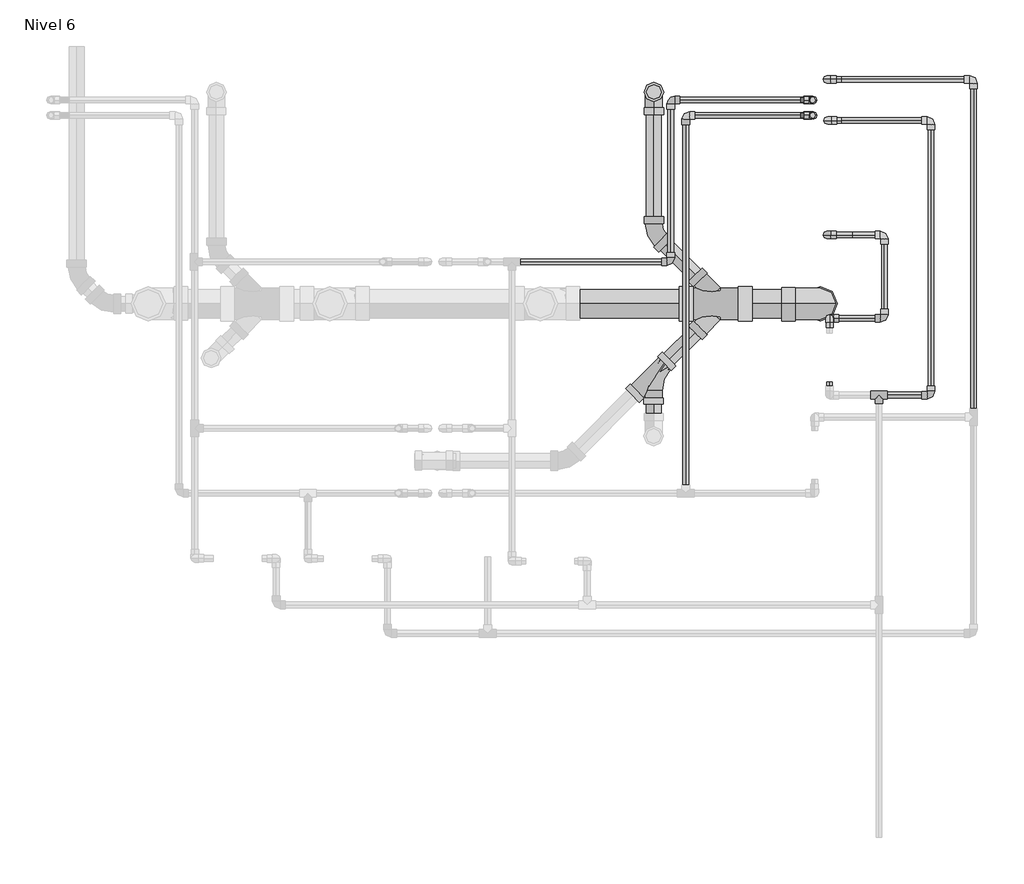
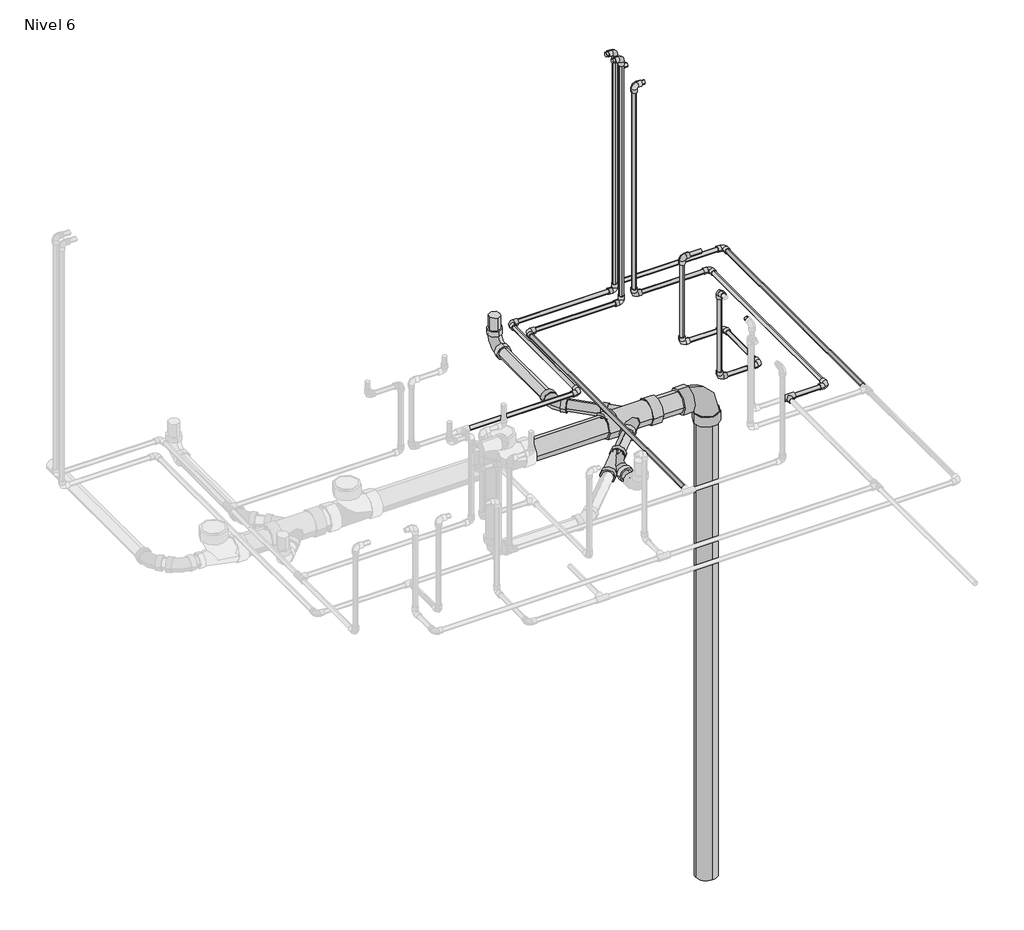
# One storey, part 11 of 11: 33 pipe segments, 26 pipe fittings.
"""IFC4 building model written with IfcOpenShell, lengths in millimetres."""

from ifc_helpers import new_model, si_unit, point, frame, frame_2d, origin, place, context, project, spatial, circle_curve, trimmed, segment, composite_curve, outline, extrude, transform, mapped, element, save
from components import pipe_fitting_ab418b84, pipe_fitting_0163322b, pipe_fitting_815a0334, m_codo_pvc_serie_40_9ad74631, m_codo_pvc_serie_40_ba05d404, m_codo_pvc_serie_40_dwv1_f5c0a64d, m_codo_pvc_serie_40_dwv1_6f1a2495, m_codo_pvc_serie_40_dwv1_326aaa64

model = new_model("IFC4")

# Units and contexts
model_context = context("Model", 3, world=origin())
ifc_project = project(units=[si_unit("LENGTHUNIT", "METRE", prefix="MILLI")], contexts=[model_context])

# Site, building, storey
site = spatial("IfcSite", under=ifc_project)
building = spatial("IfcBuilding", under=site)
storey = spatial("IfcBuildingStorey", under=building, Name="Nivel 6", Elevation=13400.0)

# Pipe fittings
placement = place(None, origin())
pipe_fitting_shape = pipe_fitting_ab418b84(model_context)
element("IfcPipeFitting", 1, ObjectType="M_Te - PVC - Serie 40 : Estándar", at=placement, inside=storey, context=model_context, shape_type="MappedRepresentation", body=[
    mapped(pipe_fitting_shape, transform((6075.1825677, 16069.8852168, 13350.0), x_axis=(1.0, 0.0, 0.0), y_axis=(0.0, 1.0, 0.0), z_axis=(0.0, 0.0, 1.0))),
])
pipe_fitting_2_shape = pipe_fitting_0163322b(model_context)
element("IfcPipeFitting", 2, ObjectType="M_Sanitario con te de reducción - PVC - Serie 40 - DWV : Estándar", at=placement, inside=storey, context=model_context, shape_type="MappedRepresentation", body=[
    mapped(pipe_fitting_2_shape, transform((5252.4531324, 16145.3871671, 13250.0), x_axis=(-0.7071067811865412, -0.7071067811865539, 0.0), y_axis=(-0.7071067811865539, 0.7071067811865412, 0.0), z_axis=(0.0, 0.0, -1.0))),
])
pipe_fitting_3_shape = pipe_fitting_815a0334(model_context)
element("IfcPipeFitting", 3, ObjectType="M_Sanitario con te doble con reducción - PVC - Serie 40 - DWV : Estándar", at=placement, inside=storey, context=model_context, shape_type="MappedRepresentation", body=[
    mapped(pipe_fitting_3_shape, transform((5510.4619927, 16403.3960274, 13250.0), x_axis=(-1.0, 0.0, 0.0), y_axis=(0.0, -1.0, 0.0), z_axis=(0.0, 0.0, 1.0))),
])
m_codo_pvc_serie_40_shape = m_codo_pvc_serie_40_9ad74631(model_context)
element("IfcPipeFitting", 4, ObjectType="M_Codo - PVC - Serie 40 : Estándar", at=placement, inside=storey, context=model_context, shape_type="MappedRepresentation", body=[
    mapped(m_codo_pvc_serie_40_shape, transform((5895.1825677, 16349.8852168, 13800.0), x_axis=(0.0, 1.0, 0.0), y_axis=(0.0, 0.0, -1.0), z_axis=(-1.0, 0.0, 0.0))),
])
element("IfcPipeFitting", 5, ObjectType="M_Codo - PVC - Serie 40 : Estándar", at=placement, inside=storey, context=model_context, shape_type="MappedRepresentation", body=[
    mapped(m_codo_pvc_serie_40_shape, transform((5895.1825677, 16349.8852168, 13350.0), x_axis=(0.0, 0.0, -1.0), y_axis=(1.0, 0.0, 0.0), z_axis=(0.0, -1.0, 0.0))),
])
element("IfcPipeFitting", 6, ObjectType="M_Codo - PVC - Serie 40 : Estándar", at=placement, inside=storey, context=model_context, shape_type="MappedRepresentation", body=[
    mapped(m_codo_pvc_serie_40_shape, transform((6095.1825677, 16349.8852168, 13350.0), x_axis=(1.0, 0.0, 0.0), y_axis=(0.0, 1.0, 0.0), z_axis=(0.0, 0.0, 1.0))),
])
element("IfcPipeFitting", 7, ObjectType="M_Codo - PVC - Serie 40 : Estándar", at=placement, inside=storey, context=model_context, shape_type="MappedRepresentation", body=[
    mapped(m_codo_pvc_serie_40_shape, transform((6095.1825677, 16654.8852168, 13350.0), x_axis=(0.0, 1.0, 0.0), y_axis=(-1.0, 0.0, 0.0), z_axis=(0.0, 0.0, 1.0))),
])
element("IfcPipeFitting", 8, ObjectType="M_Codo - PVC - Serie 40 : Estándar", at=placement, inside=storey, context=model_context, shape_type="MappedRepresentation", body=[
    mapped(m_codo_pvc_serie_40_shape, transform((5885.1825677, 16654.8852168, 13350.0), x_axis=(-1.0, 0.0, 0.0), y_axis=(0.0, 0.0, 1.0), z_axis=(0.0, 1.0, 0.0))),
])
element("IfcPipeFitting", 9, ObjectType="M_Codo - PVC - Serie 40 : Estándar", at=placement, inside=storey, context=model_context, shape_type="MappedRepresentation", body=[
    mapped(m_codo_pvc_serie_40_shape, transform((5885.1825677, 16654.8852168, 13800.0), x_axis=(0.0, 0.0, 1.0), y_axis=(1.0, 0.0, 0.0), z_axis=(0.0, 1.0, 0.0))),
])
element("IfcPipeFitting", 10, ObjectType="M_Codo - PVC - Serie 40 : Estándar", at=placement, inside=storey, context=model_context, shape_type="MappedRepresentation", body=[
    mapped(m_codo_pvc_serie_40_shape, transform((5369.7236971, 17091.6215833, 13320.0), x_axis=(-1.0, 0.0, 0.0), y_axis=(0.0, -1.0, 0.0), z_axis=(0.0, 0.0, 1.0))),
])
element("IfcPipeFitting", 11, ObjectType="M_Codo - PVC - Serie 40 : Estándar", at=placement, inside=storey, context=model_context, shape_type="MappedRepresentation", body=[
    mapped(m_codo_pvc_serie_40_shape, transform((5315.1838533, 16556.8784649, 13350.0), x_axis=(1.0, 0.0, 0.0), y_axis=(0.0, 1.0, 0.0), z_axis=(0.0, 0.0, 1.0))),
])
element("IfcPipeFitting", 12, ObjectType="M_Codo - PVC - Serie 40 : Estándar", at=placement, inside=storey, context=model_context, shape_type="MappedRepresentation", body=[
    mapped(m_codo_pvc_serie_40_shape, transform((5885.0704553, 17222.8602016, 14450.0), x_axis=(-1.0, 0.0, 0.0), y_axis=(0.0, 0.0, -1.0), z_axis=(0.0, -1.0, 0.0))),
])
element("IfcPipeFitting", 13, ObjectType="M_Codo - PVC - Serie 40 : Estándar", at=placement, inside=storey, context=model_context, shape_type="MappedRepresentation", body=[
    mapped(m_codo_pvc_serie_40_shape, transform((5885.0704553, 17222.8602016, 13320.0), x_axis=(0.0, 0.0, -1.0), y_axis=(1.0, 0.0, 0.0), z_axis=(0.0, -1.0, 0.0))),
])
element("IfcPipeFitting", 14, ObjectType="M_Codo - PVC - Serie 40 : Estándar", at=placement, inside=storey, context=model_context, shape_type="MappedRepresentation", body=[
    mapped(m_codo_pvc_serie_40_shape, transform((6420.642724, 17222.8602016, 13320.0), x_axis=(0.0, 1.0, 0.0), y_axis=(-1.0, 0.0, 0.0), z_axis=(0.0, 0.0, 1.0))),
])
element("IfcPipeFitting", 15, ObjectType="M_Codo - PVC - Serie 40 : Estándar", at=placement, inside=storey, context=model_context, shape_type="MappedRepresentation", body=[
    mapped(m_codo_pvc_serie_40_shape, transform((5887.5704553, 17072.8602016, 14450.0), x_axis=(-1.0, 0.0, 0.0), y_axis=(0.0, 0.0, -1.0), z_axis=(0.0, -1.0, 0.0))),
])
element("IfcPipeFitting", 16, ObjectType="M_Codo - PVC - Serie 40 : Estándar", at=placement, inside=storey, context=model_context, shape_type="MappedRepresentation", body=[
    mapped(m_codo_pvc_serie_40_shape, transform((5887.5704553, 17072.8602016, 13350.0), x_axis=(0.0, 0.0, -1.0), y_axis=(1.0, 0.0, 0.0), z_axis=(0.0, -1.0, 0.0))),
])
element("IfcPipeFitting", 17, ObjectType="M_Codo - PVC - Serie 40 : Estándar", at=placement, inside=storey, context=model_context, shape_type="MappedRepresentation", body=[
    mapped(m_codo_pvc_serie_40_shape, transform((6265.642724, 16069.8852168, 13350.0), x_axis=(1.0, 0.0, 0.0), y_axis=(0.0, 1.0, 0.0), z_axis=(0.0, 0.0, 1.0))),
])
element("IfcPipeFitting", 18, ObjectType="M_Codo - PVC - Serie 40 : Estándar", at=placement, inside=storey, context=model_context, shape_type="MappedRepresentation", body=[
    mapped(m_codo_pvc_serie_40_shape, transform((6265.642724, 17072.8602016, 13350.0), x_axis=(0.0, 1.0, 0.0), y_axis=(-1.0, 0.0, 0.0), z_axis=(0.0, 0.0, 1.0))),
])
m_codo_pvc_serie_40_2_shape = m_codo_pvc_serie_40_ba05d404(model_context)
element("IfcPipeFitting", 19, ObjectType="M_Codo - PVC - Serie 40 : Estándar", at=placement, inside=storey, context=model_context, shape_type="MappedRepresentation", body=[
    mapped(m_codo_pvc_serie_40_2_shape, transform((5315.1838533, 17147.3386211, 13350.0), x_axis=(0.0, 1.0, 0.0), y_axis=(-1.0, 0.0, 0.0), z_axis=(0.0, 0.0, 1.0))),
])
element("IfcPipeFitting", 20, ObjectType="M_Codo - PVC - Serie 40 : Estándar", at=placement, inside=storey, context=model_context, shape_type="MappedRepresentation", body=[
    mapped(m_codo_pvc_serie_40_2_shape, transform((5833.9338533, 17147.3386211, 13350.0), x_axis=(1.0, 0.0, 0.0), y_axis=(0.0, 0.0, -1.0), z_axis=(0.0, 1.0, 0.0))),
])
element("IfcPipeFitting", 21, ObjectType="M_Codo - PVC - Serie 40 : Estándar", at=placement, inside=storey, context=model_context, shape_type="MappedRepresentation", body=[
    mapped(m_codo_pvc_serie_40_2_shape, transform((5833.9338533, 17147.3386211, 14600.0), x_axis=(0.0, 0.0, 1.0), y_axis=(1.0, 0.0, 0.0), z_axis=(0.0, 1.0, 0.0))),
])
element("IfcPipeFitting", 22, ObjectType="M_Codo - PVC - Serie 40 : Estándar", at=placement, inside=storey, context=model_context, shape_type="MappedRepresentation", body=[
    mapped(m_codo_pvc_serie_40_2_shape, transform((5834.7236971, 17091.6215833, 13320.0), x_axis=(1.0, 0.0, 0.0), y_axis=(0.0, 0.0, -1.0), z_axis=(0.0, 1.0, 0.0))),
])
element("IfcPipeFitting", 23, ObjectType="M_Codo - PVC - Serie 40 : Estándar", at=placement, inside=storey, context=model_context, shape_type="MappedRepresentation", body=[
    mapped(m_codo_pvc_serie_40_2_shape, transform((5834.7236971, 17091.6215833, 14600.0), x_axis=(0.0, 0.0, 1.0), y_axis=(1.0, 0.0, 0.0), z_axis=(0.0, 1.0, 0.0))),
])
m_codo_pvc_serie_40_dwv1_shape = m_codo_pvc_serie_40_dwv1_f5c0a64d(model_context)
element("IfcPipeFitting", 24, ObjectType="M_Codo - PVC - Serie 40 - DWV1 : Estándar 2", at=placement, inside=storey, context=model_context, shape_type="MappedRepresentation", body=[
    mapped(m_codo_pvc_serie_40_dwv1_shape, transform((5860.8695091, 16403.3960274, 13250.0), x_axis=(1.0, 0.0, 0.0), y_axis=(0.0, 0.0, -1.0), z_axis=(0.0, 1.0, 0.0))),
])
m_codo_pvc_serie_40_dwv1_2_shape = m_codo_pvc_serie_40_dwv1_6f1a2495(model_context)
element("IfcPipeFitting", 25, ObjectType="M_Codo - PVC - Serie 40 - DWV1 : Estándar 2", at=placement, inside=storey, context=model_context, shape_type="MappedRepresentation", body=[
    mapped(m_codo_pvc_serie_40_dwv1_2_shape, transform((5253.1820888, 16660.6759312, 13250.0), x_axis=(0.0, -1.0, 0.0), y_axis=(1.0, 0.0, 0.0), z_axis=(0.0, 0.0, 1.0))),
])
m_codo_pvc_serie_40_dwv1_3_shape = m_codo_pvc_serie_40_dwv1_326aaa64(model_context)
element("IfcPipeFitting", 26, ObjectType="M_Codo - PVC - Serie 40 - DWV1 : Estándar 2", at=placement, inside=storey, context=model_context, shape_type="MappedRepresentation", body=[
    mapped(m_codo_pvc_serie_40_dwv1_3_shape, transform((5253.1820888, 17177.0344873, 13250.0), x_axis=(0.0, 1.0, 0.0), y_axis=(0.0, 0.0, -1.0), z_axis=(-1.0, 0.0, 0.0))),
])

# Pipe segments
element("IfcPipeSegment", 27, ObjectType="Tuberia PVC Agua Fria", at=placement, inside=storey, context=model_context, shape_type="SweptSolid", body=[
    extrude(outline(composite_curve([segment(trimmed(circle_curve(frame_2d((16349.8852168, 13350.0)), 10.31875), [point((16339.5664668, 13350.0))], [point((16349.8852168, 13360.31875))], False, "CARTESIAN"), True, "CONTINUOUS"), segment(trimmed(circle_curve(frame_2d((16349.8852168, 13350.0)), 10.31875), [point((16349.8852168, 13360.31875))], [point((16360.2039668, 13350.0))], False, "CARTESIAN"), True, "CONTINUOUS"), segment(trimmed(circle_curve(frame_2d((16349.8852168, 13350.0)), 10.31875), [point((16360.2039668, 13350.0))], [point((16349.8852168, 13339.68125))], False, "CARTESIAN"), True, "CONTINUOUS"), segment(trimmed(circle_curve(frame_2d((16349.8852168, 13350.0)), 10.31875), [point((16349.8852168, 13339.68125))], [point((16339.5664668, 13350.0))], False, "CARTESIAN"), True, "CONTINUOUS")], self_intersect=False)), frame((5928.5835677, 0.0, 0.0), z_axis=(1.0, 0.0, 0.0), x_axis=(0.0, 1.0, 0.0)), (0.0, 0.0, 1.0), 133.198),
])
element("IfcPipeSegment", 28, ObjectType="Tuberia PVC Agua Fria", at=placement, inside=storey, context=model_context, shape_type="SweptSolid", body=[
    extrude(outline(composite_curve([segment(trimmed(circle_curve(frame_2d((5895.1825677, 16349.8852168)), 10.31875), [point((5905.5013177, 16349.8852168))], [point((5895.1825677, 16339.5664668))], False, "CARTESIAN"), True, "CONTINUOUS"), segment(trimmed(circle_curve(frame_2d((5895.1825677, 16349.8852168)), 10.31875), [point((5895.1825677, 16339.5664668))], [point((5884.8638177, 16349.8852168))], False, "CARTESIAN"), True, "CONTINUOUS"), segment(trimmed(circle_curve(frame_2d((5895.1825677, 16349.8852168)), 10.31875), [point((5884.8638177, 16349.8852168))], [point((5895.1825677, 16360.2039668))], False, "CARTESIAN"), True, "CONTINUOUS"), segment(trimmed(circle_curve(frame_2d((5895.1825677, 16349.8852168)), 10.31875), [point((5895.1825677, 16360.2039668))], [point((5905.5013177, 16349.8852168))], False, "CARTESIAN"), True, "CONTINUOUS")], self_intersect=False)), frame((0.0, 0.0, 13383.401), z_axis=(0.0, 0.0, 1.0), x_axis=(1.0, 0.0, 0.0)), (0.0, 0.0, 1.0), 383.198),
])
element("IfcPipeSegment", 29, ObjectType="Tuberia PVC Agua Fria", at=placement, inside=storey, context=model_context, shape_type="SweptSolid", body=[
    extrude(outline(composite_curve([segment(trimmed(circle_curve(frame_2d((13350.0, 6095.1825677)), 10.31875), [point((13350.0, 6105.5013177))], [point((13360.31875, 6095.1825677))], False, "CARTESIAN"), True, "CONTINUOUS"), segment(trimmed(circle_curve(frame_2d((13350.0, 6095.1825677)), 10.31875), [point((13360.31875, 6095.1825677))], [point((13350.0, 6084.8638177))], False, "CARTESIAN"), True, "CONTINUOUS"), segment(trimmed(circle_curve(frame_2d((13350.0, 6095.1825677)), 10.31875), [point((13350.0, 6084.8638177))], [point((13339.68125, 6095.1825677))], False, "CARTESIAN"), True, "CONTINUOUS"), segment(trimmed(circle_curve(frame_2d((13350.0, 6095.1825677)), 10.31875), [point((13339.68125, 6095.1825677))], [point((13350.0, 6105.5013177))], False, "CARTESIAN"), True, "CONTINUOUS")], self_intersect=False)), frame((0.0, 16383.2862168, 0.0), z_axis=(0.0, 1.0, 0.0), x_axis=(0.0, 0.0, 1.0)), (0.0, 0.0, 1.0), 238.198),
])
element("IfcPipeSegment", 30, ObjectType="Tuberia PVC Agua Fria", at=placement, inside=storey, context=model_context, shape_type="SweptSolid", body=[
    extrude(outline(composite_curve([segment(trimmed(circle_curve(frame_2d((16654.8852168, 13350.0)), 10.31875), [point((16665.2039668, 13350.0))], [point((16654.8852168, 13339.68125))], False, "CARTESIAN"), True, "CONTINUOUS"), segment(trimmed(circle_curve(frame_2d((16654.8852168, 13350.0)), 10.31875), [point((16654.8852168, 13339.68125))], [point((16644.5664668, 13350.0))], False, "CARTESIAN"), True, "CONTINUOUS"), segment(trimmed(circle_curve(frame_2d((16654.8852168, 13350.0)), 10.31875), [point((16644.5664668, 13350.0))], [point((16654.8852168, 13360.31875))], False, "CARTESIAN"), True, "CONTINUOUS"), segment(trimmed(circle_curve(frame_2d((16654.8852168, 13350.0)), 10.31875), [point((16654.8852168, 13360.31875))], [point((16665.2039668, 13350.0))], False, "CARTESIAN"), True, "CONTINUOUS")], self_intersect=False)), frame((5918.5835677, 0.0, 0.0), z_axis=(1.0, 0.0, 0.0), x_axis=(0.0, 1.0, 0.0)), (0.0, 0.0, 1.0), 143.198),
])
element("IfcPipeSegment", 31, ObjectType="Tuberia PVC Agua Fria", at=placement, inside=storey, context=model_context, shape_type="SweptSolid", body=[
    extrude(outline(composite_curve([segment(trimmed(circle_curve(frame_2d((16654.8852168, 13800.0)), 10.31875), [point((16644.5664668, 13800.0))], [point((16654.8852168, 13810.31875))], False, "CARTESIAN"), True, "CONTINUOUS"), segment(trimmed(circle_curve(frame_2d((16654.8852168, 13800.0)), 10.31875), [point((16654.8852168, 13810.31875))], [point((16665.2039668, 13800.0))], False, "CARTESIAN"), True, "CONTINUOUS"), segment(trimmed(circle_curve(frame_2d((16654.8852168, 13800.0)), 10.31875), [point((16665.2039668, 13800.0))], [point((16654.8852168, 13789.68125))], False, "CARTESIAN"), True, "CONTINUOUS"), segment(trimmed(circle_curve(frame_2d((16654.8852168, 13800.0)), 10.31875), [point((16654.8852168, 13789.68125))], [point((16644.5664668, 13800.0))], False, "CARTESIAN"), True, "CONTINUOUS")], self_intersect=False)), frame((5918.5835677, 0.0, 0.0), z_axis=(1.0, 0.0, 0.0), x_axis=(0.0, 1.0, 0.0)), (0.0, 0.0, 1.0), 59.8985),
])
element("IfcPipeSegment", 32, ObjectType="Tuberia PVC Agua Fria", at=placement, inside=storey, context=model_context, shape_type="SweptSolid", body=[
    extrude(outline(composite_curve([segment(trimmed(circle_curve(frame_2d((5885.1825677, 16654.8852168)), 10.31875), [point((5874.8638177, 16654.8852168))], [point((5885.1825677, 16665.2039668))], False, "CARTESIAN"), True, "CONTINUOUS"), segment(trimmed(circle_curve(frame_2d((5885.1825677, 16654.8852168)), 10.31875), [point((5885.1825677, 16665.2039668))], [point((5895.5013177, 16654.8852168))], False, "CARTESIAN"), True, "CONTINUOUS"), segment(trimmed(circle_curve(frame_2d((5885.1825677, 16654.8852168)), 10.31875), [point((5895.5013177, 16654.8852168))], [point((5885.1825677, 16644.5664668))], False, "CARTESIAN"), True, "CONTINUOUS"), segment(trimmed(circle_curve(frame_2d((5885.1825677, 16654.8852168)), 10.31875), [point((5885.1825677, 16644.5664668))], [point((5874.8638177, 16654.8852168))], False, "CARTESIAN"), True, "CONTINUOUS")], self_intersect=False)), frame((0.0, 0.0, 13383.401), z_axis=(0.0, 0.0, 1.0), x_axis=(1.0, 0.0, 0.0)), (0.0, 0.0, 1.0), 383.198),
])
element("IfcPipeSegment", 33, ObjectType="Tuberia PVC Agua Fria", at=placement, inside=storey, context=model_context, shape_type="SweptSolid", body=[
    extrude(outline(composite_curve([segment(trimmed(circle_curve(frame_2d((13800.0, 5895.1825677)), 10.31875), [point((13800.0, 5905.5013177))], [point((13810.31875, 5895.1825677))], False, "CARTESIAN"), True, "CONTINUOUS"), segment(trimmed(circle_curve(frame_2d((13800.0, 5895.1825677)), 10.31875), [point((13810.31875, 5895.1825677))], [point((13800.0, 5884.8638177))], False, "CARTESIAN"), True, "CONTINUOUS"), segment(trimmed(circle_curve(frame_2d((13800.0, 5895.1825677)), 10.31875), [point((13800.0, 5884.8638177))], [point((13789.68125, 5895.1825677))], False, "CARTESIAN"), True, "CONTINUOUS"), segment(trimmed(circle_curve(frame_2d((13800.0, 5895.1825677)), 10.31875), [point((13789.68125, 5895.1825677))], [point((13800.0, 5905.5013177))], False, "CARTESIAN"), True, "CONTINUOUS")], self_intersect=False)), frame((0.0, 16103.2862168, 0.0), z_axis=(0.0, 1.0, 0.0), x_axis=(0.0, 0.0, 1.0)), (0.0, 0.0, 1.0), 15.099),
])
element("IfcPipeSegment", 34, ObjectType="Tuberia PVC Agua Fria", at=placement, inside=storey, context=model_context, shape_type="SweptSolid", body=[
    extrude(outline(composite_curve([segment(trimmed(circle_curve(frame_2d((16069.8852168, 13350.0)), 10.31875), [point((16059.5664668, 13350.0))], [point((16069.8852168, 13360.31875))], False, "CARTESIAN"), True, "CONTINUOUS"), segment(trimmed(circle_curve(frame_2d((16069.8852168, 13350.0)), 10.31875), [point((16069.8852168, 13360.31875))], [point((16080.2039668, 13350.0))], False, "CARTESIAN"), True, "CONTINUOUS"), segment(trimmed(circle_curve(frame_2d((16069.8852168, 13350.0)), 10.31875), [point((16080.2039668, 13350.0))], [point((16069.8852168, 13339.68125))], False, "CARTESIAN"), True, "CONTINUOUS"), segment(trimmed(circle_curve(frame_2d((16069.8852168, 13350.0)), 10.31875), [point((16069.8852168, 13339.68125))], [point((16059.5664668, 13350.0))], False, "CARTESIAN"), True, "CONTINUOUS")], self_intersect=False)), frame((6105.642724, 0.0, 0.0), z_axis=(1.0, 0.0, 0.0), x_axis=(0.0, 1.0, 0.0)), (0.0, 0.0, 1.0), 126.599),
])
element("IfcPipeSegment", 35, ObjectType="Tuberia PVC Agua Fria", at=placement, inside=storey, context=model_context, shape_type="SweptSolid", body=[
    extrude(outline(composite_curve([segment(trimmed(circle_curve(frame_2d((13350.0, 6265.642724)), 10.31875), [point((13350.0, 6275.961474))], [point((13360.31875, 6265.642724))], False, "CARTESIAN"), True, "CONTINUOUS"), segment(trimmed(circle_curve(frame_2d((13350.0, 6265.642724)), 10.31875), [point((13360.31875, 6265.642724))], [point((13350.0, 6255.323974))], False, "CARTESIAN"), True, "CONTINUOUS"), segment(trimmed(circle_curve(frame_2d((13350.0, 6265.642724)), 10.31875), [point((13350.0, 6255.323974))], [point((13339.68125, 6265.642724))], False, "CARTESIAN"), True, "CONTINUOUS"), segment(trimmed(circle_curve(frame_2d((13350.0, 6265.642724)), 10.31875), [point((13339.68125, 6265.642724))], [point((13350.0, 6275.961474))], False, "CARTESIAN"), True, "CONTINUOUS")], self_intersect=False)), frame((0.0, 16103.2862168, 0.0), z_axis=(0.0, 1.0, 0.0), x_axis=(0.0, 0.0, 1.0)), (0.0, 0.0, 1.0), 936.1729847),
])
element("IfcPipeSegment", 36, ObjectType="Tuberia PVC Agua Fria", at=placement, inside=storey, context=model_context, shape_type="SweptSolid", body=[
    extrude(outline(composite_curve([segment(trimmed(circle_curve(frame_2d((13350.0, 5315.1838533)), 10.31875), [point((13350.0, 5325.5026033))], [point((13360.31875, 5315.1838533))], False, "CARTESIAN"), True, "CONTINUOUS"), segment(trimmed(circle_curve(frame_2d((13350.0, 5315.1838533)), 10.31875), [point((13360.31875, 5315.1838533))], [point((13350.0, 5304.8651033))], False, "CARTESIAN"), True, "CONTINUOUS"), segment(trimmed(circle_curve(frame_2d((13350.0, 5315.1838533)), 10.31875), [point((13350.0, 5304.8651033))], [point((13339.68125, 5315.1838533))], False, "CARTESIAN"), True, "CONTINUOUS"), segment(trimmed(circle_curve(frame_2d((13350.0, 5315.1838533)), 10.31875), [point((13339.68125, 5315.1838533))], [point((13350.0, 5325.5026033))], False, "CARTESIAN"), True, "CONTINUOUS")], self_intersect=False)), frame((0.0, 16590.2794649, 0.0), z_axis=(0.0, 1.0, 0.0), x_axis=(0.0, 0.0, 1.0)), (0.0, 0.0, 1.0), 523.6581563),
])
element("IfcPipeSegment", 37, ObjectType="Tuberia PVC Agua Fria", at=placement, inside=storey, context=model_context, shape_type="SweptSolid", body=[
    extrude(outline(composite_curve([segment(trimmed(circle_curve(frame_2d((17147.3386211, 13350.0)), 10.31875), [point((17137.0198711, 13350.0))], [point((17147.3386211, 13360.31875))], False, "CARTESIAN"), True, "CONTINUOUS"), segment(trimmed(circle_curve(frame_2d((17147.3386211, 13350.0)), 10.31875), [point((17147.3386211, 13360.31875))], [point((17157.6573711, 13350.0))], False, "CARTESIAN"), True, "CONTINUOUS"), segment(trimmed(circle_curve(frame_2d((17147.3386211, 13350.0)), 10.31875), [point((17157.6573711, 13350.0))], [point((17147.3386211, 13339.68125))], False, "CARTESIAN"), True, "CONTINUOUS"), segment(trimmed(circle_curve(frame_2d((17147.3386211, 13350.0)), 10.31875), [point((17147.3386211, 13339.68125))], [point((17137.0198711, 13350.0))], False, "CARTESIAN"), True, "CONTINUOUS")], self_intersect=False)), frame((5348.5848533, 0.0, 0.0), z_axis=(1.0, 0.0, 0.0), x_axis=(0.0, 1.0, 0.0)), (0.0, 0.0, 1.0), 451.948),
])
element("IfcPipeSegment", 38, ObjectType="Tuberia PVC Agua Fria", at=placement, inside=storey, context=model_context, shape_type="SweptSolid", body=[
    extrude(outline(composite_curve([segment(trimmed(circle_curve(frame_2d((17147.3386211, 14600.0)), 10.31875), [point((17157.6573711, 14600.0))], [point((17147.3386211, 14589.68125))], False, "CARTESIAN"), True, "CONTINUOUS"), segment(trimmed(circle_curve(frame_2d((17147.3386211, 14600.0)), 10.31875), [point((17147.3386211, 14589.68125))], [point((17137.0198711, 14600.0))], False, "CARTESIAN"), True, "CONTINUOUS"), segment(trimmed(circle_curve(frame_2d((17147.3386211, 14600.0)), 10.31875), [point((17137.0198711, 14600.0))], [point((17147.3386211, 14610.31875))], False, "CARTESIAN"), True, "CONTINUOUS"), segment(trimmed(circle_curve(frame_2d((17147.3386211, 14600.0)), 10.31875), [point((17147.3386211, 14610.31875))], [point((17157.6573711, 14600.0))], False, "CARTESIAN"), True, "CONTINUOUS")], self_intersect=False)), frame((5790.1838533, 0.0, 0.0), z_axis=(1.0, 0.0, 0.0), x_axis=(0.0, 1.0, 0.0)), (0.0, 0.0, 1.0), 10.349),
])
element("IfcPipeSegment", 39, ObjectType="Tuberia PVC Agua Fria", at=placement, inside=storey, context=model_context, shape_type="SweptSolid", body=[
    extrude(outline(composite_curve([segment(trimmed(circle_curve(frame_2d((5833.9338533, 17147.3386211)), 10.31875), [point((5823.6151033, 17147.3386211))], [point((5833.9338533, 17157.6573711))], False, "CARTESIAN"), True, "CONTINUOUS"), segment(trimmed(circle_curve(frame_2d((5833.9338533, 17147.3386211)), 10.31875), [point((5833.9338533, 17157.6573711))], [point((5844.2526033, 17147.3386211))], False, "CARTESIAN"), True, "CONTINUOUS"), segment(trimmed(circle_curve(frame_2d((5833.9338533, 17147.3386211)), 10.31875), [point((5844.2526033, 17147.3386211))], [point((5833.9338533, 17137.0198711))], False, "CARTESIAN"), True, "CONTINUOUS"), segment(trimmed(circle_curve(frame_2d((5833.9338533, 17147.3386211)), 10.31875), [point((5833.9338533, 17137.0198711))], [point((5823.6151033, 17147.3386211))], False, "CARTESIAN"), True, "CONTINUOUS")], self_intersect=False)), frame((0.0, 0.0, 13383.401), z_axis=(0.0, 0.0, 1.0), x_axis=(1.0, 0.0, 0.0)), (0.0, 0.0, 1.0), 1183.198),
])
element("IfcPipeSegment", 40, ObjectType="Tuberia PVC Agua Fria", at=placement, inside=storey, context=model_context, shape_type="SweptSolid", body=[
    extrude(outline(composite_curve([segment(trimmed(circle_curve(frame_2d((16556.8784649, 13350.0)), 10.31875), [point((16567.1972149, 13350.0))], [point((16556.8784649, 13339.68125))], False, "CARTESIAN"), True, "CONTINUOUS"), segment(trimmed(circle_curve(frame_2d((16556.8784649, 13350.0)), 10.31875), [point((16556.8784649, 13339.68125))], [point((16546.5597149, 13350.0))], False, "CARTESIAN"), True, "CONTINUOUS"), segment(trimmed(circle_curve(frame_2d((16556.8784649, 13350.0)), 10.31875), [point((16546.5597149, 13350.0))], [point((16556.8784649, 13360.31875))], False, "CARTESIAN"), True, "CONTINUOUS"), segment(trimmed(circle_curve(frame_2d((16556.8784649, 13350.0)), 10.31875), [point((16556.8784649, 13360.31875))], [point((16567.1972149, 13350.0))], False, "CARTESIAN"), True, "CONTINUOUS")], self_intersect=False)), frame((4765.642724, 0.0, 0.0), z_axis=(1.0, 0.0, 0.0), x_axis=(0.0, 1.0, 0.0)), (0.0, 0.0, 1.0), 516.1401293),
])
element("IfcPipeSegment", 41, ObjectType="Tuberia PVC Agua Fria", at=placement, inside=storey, context=model_context, shape_type="SweptSolid", body=[
    extrude(outline(composite_curve([segment(trimmed(circle_curve(frame_2d((17072.8602016, 14450.0)), 10.31875), [point((17083.1789516, 14450.0))], [point((17072.8602016, 14439.68125))], False, "CARTESIAN"), True, "CONTINUOUS"), segment(trimmed(circle_curve(frame_2d((17072.8602016, 14450.0)), 10.31875), [point((17072.8602016, 14439.68125))], [point((17062.5414516, 14450.0))], False, "CARTESIAN"), True, "CONTINUOUS"), segment(trimmed(circle_curve(frame_2d((17072.8602016, 14450.0)), 10.31875), [point((17062.5414516, 14450.0))], [point((17072.8602016, 14460.31875))], False, "CARTESIAN"), True, "CONTINUOUS"), segment(trimmed(circle_curve(frame_2d((17072.8602016, 14450.0)), 10.31875), [point((17072.8602016, 14460.31875))], [point((17083.1789516, 14450.0))], False, "CARTESIAN"), True, "CONTINUOUS")], self_intersect=False)), frame((5920.9714553, 0.0, 0.0), z_axis=(1.0, 0.0, 0.0), x_axis=(0.0, 1.0, 0.0)), (0.0, 0.0, 1.0), 16.599),
])
element("IfcPipeSegment", 42, ObjectType="Tuberia PVC Agua Fria", at=placement, inside=storey, context=model_context, shape_type="SweptSolid", body=[
    extrude(outline(composite_curve([segment(trimmed(circle_curve(frame_2d((5887.5704553, 17072.8602016)), 10.31875), [point((5897.8892053, 17072.8602016))], [point((5887.5704553, 17062.5414516))], False, "CARTESIAN"), True, "CONTINUOUS"), segment(trimmed(circle_curve(frame_2d((5887.5704553, 17072.8602016)), 10.31875), [point((5887.5704553, 17062.5414516))], [point((5877.2517053, 17072.8602016))], False, "CARTESIAN"), True, "CONTINUOUS"), segment(trimmed(circle_curve(frame_2d((5887.5704553, 17072.8602016)), 10.31875), [point((5877.2517053, 17072.8602016))], [point((5887.5704553, 17083.1789516))], False, "CARTESIAN"), True, "CONTINUOUS"), segment(trimmed(circle_curve(frame_2d((5887.5704553, 17072.8602016)), 10.31875), [point((5887.5704553, 17083.1789516))], [point((5897.8892053, 17072.8602016))], False, "CARTESIAN"), True, "CONTINUOUS")], self_intersect=False)), frame((0.0, 0.0, 13383.401), z_axis=(0.0, 0.0, 1.0), x_axis=(1.0, 0.0, 0.0)), (0.0, 0.0, 1.0), 1033.198),
])
element("IfcPipeSegment", 43, ObjectType="Tuberia PVC Agua Fria", at=placement, inside=storey, context=model_context, shape_type="SweptSolid", body=[
    extrude(outline(composite_curve([segment(trimmed(circle_curve(frame_2d((17072.8602016, 13350.0)), 10.31875), [point((17062.5414516, 13350.0))], [point((17072.8602016, 13360.31875))], False, "CARTESIAN"), True, "CONTINUOUS"), segment(trimmed(circle_curve(frame_2d((17072.8602016, 13350.0)), 10.31875), [point((17072.8602016, 13360.31875))], [point((17083.1789516, 13350.0))], False, "CARTESIAN"), True, "CONTINUOUS"), segment(trimmed(circle_curve(frame_2d((17072.8602016, 13350.0)), 10.31875), [point((17083.1789516, 13350.0))], [point((17072.8602016, 13339.68125))], False, "CARTESIAN"), True, "CONTINUOUS"), segment(trimmed(circle_curve(frame_2d((17072.8602016, 13350.0)), 10.31875), [point((17072.8602016, 13339.68125))], [point((17062.5414516, 13350.0))], False, "CARTESIAN"), True, "CONTINUOUS")], self_intersect=False)), frame((5920.9714553, 0.0, 0.0), z_axis=(1.0, 0.0, 0.0), x_axis=(0.0, 1.0, 0.0)), (0.0, 0.0, 1.0), 311.2702687),
])
element("IfcPipeSegment", 44, ObjectType="Tuberia PVC Agua Caliente", at=placement, inside=storey, context=model_context, shape_type="SweptSolid", body=[
    extrude(outline(composite_curve([segment(trimmed(circle_curve(frame_2d((13320.0, 6420.642724)), 10.31875), [point((13320.0, 6410.323974))], [point((13309.68125, 6420.642724))], False, "CARTESIAN"), True, "CONTINUOUS"), segment(trimmed(circle_curve(frame_2d((13320.0, 6420.642724)), 10.31875), [point((13309.68125, 6420.642724))], [point((13320.0, 6430.961474))], False, "CARTESIAN"), True, "CONTINUOUS"), segment(trimmed(circle_curve(frame_2d((13320.0, 6420.642724)), 10.31875), [point((13320.0, 6430.961474))], [point((13330.31875, 6420.642724))], False, "CARTESIAN"), True, "CONTINUOUS"), segment(trimmed(circle_curve(frame_2d((13320.0, 6420.642724)), 10.31875), [point((13330.31875, 6420.642724))], [point((13320.0, 6410.323974))], False, "CARTESIAN"), True, "CONTINUOUS")], self_intersect=False)), frame((0.0, 16020.3453731, 0.0), z_axis=(0.0, 1.0, 0.0), x_axis=(0.0, 0.0, 1.0)), (0.0, 0.0, 1.0), 1169.1138285),
])
element("IfcPipeSegment", 45, ObjectType="Tuberia PVC Agua Caliente", at=placement, inside=storey, context=model_context, shape_type="SweptSolid", body=[
    extrude(outline(composite_curve([segment(trimmed(circle_curve(frame_2d((13320.0, 5369.7236971)), 10.31875), [point((13320.0, 5359.4049471))], [point((13309.68125, 5369.7236971))], False, "CARTESIAN"), True, "CONTINUOUS"), segment(trimmed(circle_curve(frame_2d((13320.0, 5369.7236971)), 10.31875), [point((13309.68125, 5369.7236971))], [point((13320.0, 5380.0424471))], False, "CARTESIAN"), True, "CONTINUOUS"), segment(trimmed(circle_curve(frame_2d((13320.0, 5369.7236971)), 10.31875), [point((13320.0, 5380.0424471))], [point((13330.31875, 5369.7236971))], False, "CARTESIAN"), True, "CONTINUOUS"), segment(trimmed(circle_curve(frame_2d((13320.0, 5369.7236971)), 10.31875), [point((13330.31875, 5369.7236971))], [point((13320.0, 5359.4049471))], False, "CARTESIAN"), True, "CONTINUOUS")], self_intersect=False)), frame((0.0, 15742.0817396, 0.0), z_axis=(0.0, 1.0, 0.0), x_axis=(0.0, 0.0, 1.0)), (0.0, 0.0, 1.0), 1316.1388437),
])
element("IfcPipeSegment", 46, ObjectType="Tuberia PVC Agua Caliente", at=placement, inside=storey, context=model_context, shape_type="SweptSolid", body=[
    extrude(outline(composite_curve([segment(trimmed(circle_curve(frame_2d((17091.6215833, 13320.0)), 10.31875), [point((17081.3028333, 13320.0))], [point((17091.6215833, 13330.31875))], False, "CARTESIAN"), True, "CONTINUOUS"), segment(trimmed(circle_curve(frame_2d((17091.6215833, 13320.0)), 10.31875), [point((17091.6215833, 13330.31875))], [point((17101.9403333, 13320.0))], False, "CARTESIAN"), True, "CONTINUOUS"), segment(trimmed(circle_curve(frame_2d((17091.6215833, 13320.0)), 10.31875), [point((17101.9403333, 13320.0))], [point((17091.6215833, 13309.68125))], False, "CARTESIAN"), True, "CONTINUOUS"), segment(trimmed(circle_curve(frame_2d((17091.6215833, 13320.0)), 10.31875), [point((17091.6215833, 13309.68125))], [point((17081.3028333, 13320.0))], False, "CARTESIAN"), True, "CONTINUOUS")], self_intersect=False)), frame((5403.1246971, 0.0, 0.0), z_axis=(1.0, 0.0, 0.0), x_axis=(0.0, 1.0, 0.0)), (0.0, 0.0, 1.0), 398.198),
])
element("IfcPipeSegment", 47, ObjectType="Tuberia PVC Agua Caliente", at=placement, inside=storey, context=model_context, shape_type="SweptSolid", body=[
    extrude(outline(composite_curve([segment(trimmed(circle_curve(frame_2d((17091.6215833, 14600.0)), 10.31875), [point((17101.9403333, 14600.0))], [point((17091.6215833, 14589.68125))], False, "CARTESIAN"), True, "CONTINUOUS"), segment(trimmed(circle_curve(frame_2d((17091.6215833, 14600.0)), 10.31875), [point((17091.6215833, 14589.68125))], [point((17081.3028333, 14600.0))], False, "CARTESIAN"), True, "CONTINUOUS"), segment(trimmed(circle_curve(frame_2d((17091.6215833, 14600.0)), 10.31875), [point((17081.3028333, 14600.0))], [point((17091.6215833, 14610.31875))], False, "CARTESIAN"), True, "CONTINUOUS"), segment(trimmed(circle_curve(frame_2d((17091.6215833, 14600.0)), 10.31875), [point((17091.6215833, 14610.31875))], [point((17101.9403333, 14600.0))], False, "CARTESIAN"), True, "CONTINUOUS")], self_intersect=False)), frame((5790.1838533, 0.0, 0.0), z_axis=(1.0, 0.0, 0.0), x_axis=(0.0, 1.0, 0.0)), (0.0, 0.0, 1.0), 11.1388437),
])
element("IfcPipeSegment", 48, ObjectType="Tuberia PVC Agua Caliente", at=placement, inside=storey, context=model_context, shape_type="SweptSolid", body=[
    extrude(outline(composite_curve([segment(trimmed(circle_curve(frame_2d((5834.7236971, 17091.6215833)), 10.31875), [point((5824.4049471, 17091.6215833))], [point((5834.7236971, 17101.9403333))], False, "CARTESIAN"), True, "CONTINUOUS"), segment(trimmed(circle_curve(frame_2d((5834.7236971, 17091.6215833)), 10.31875), [point((5834.7236971, 17101.9403333))], [point((5845.0424471, 17091.6215833))], False, "CARTESIAN"), True, "CONTINUOUS"), segment(trimmed(circle_curve(frame_2d((5834.7236971, 17091.6215833)), 10.31875), [point((5845.0424471, 17091.6215833))], [point((5834.7236971, 17081.3028333))], False, "CARTESIAN"), True, "CONTINUOUS"), segment(trimmed(circle_curve(frame_2d((5834.7236971, 17091.6215833)), 10.31875), [point((5834.7236971, 17081.3028333))], [point((5824.4049471, 17091.6215833))], False, "CARTESIAN"), True, "CONTINUOUS")], self_intersect=False)), frame((0.0, 0.0, 13353.401), z_axis=(0.0, 0.0, 1.0), x_axis=(1.0, 0.0, 0.0)), (0.0, 0.0, 1.0), 1213.198),
])
element("IfcPipeSegment", 49, ObjectType="Tuberia PVC Agua Caliente", at=placement, inside=storey, context=model_context, shape_type="SweptSolid", body=[
    extrude(outline(composite_curve([segment(trimmed(circle_curve(frame_2d((17222.8602016, 14450.0)), 10.31875), [point((17233.1789516, 14450.0))], [point((17222.8602016, 14439.68125))], False, "CARTESIAN"), True, "CONTINUOUS"), segment(trimmed(circle_curve(frame_2d((17222.8602016, 14450.0)), 10.31875), [point((17222.8602016, 14439.68125))], [point((17212.5414516, 14450.0))], False, "CARTESIAN"), True, "CONTINUOUS"), segment(trimmed(circle_curve(frame_2d((17222.8602016, 14450.0)), 10.31875), [point((17212.5414516, 14450.0))], [point((17222.8602016, 14460.31875))], False, "CARTESIAN"), True, "CONTINUOUS"), segment(trimmed(circle_curve(frame_2d((17222.8602016, 14450.0)), 10.31875), [point((17222.8602016, 14460.31875))], [point((17233.1789516, 14450.0))], False, "CARTESIAN"), True, "CONTINUOUS")], self_intersect=False)), frame((5918.4714553, 0.0, 0.0), z_axis=(1.0, 0.0, 0.0), x_axis=(0.0, 1.0, 0.0)), (0.0, 0.0, 1.0), 19.099),
])
element("IfcPipeSegment", 50, ObjectType="Tuberia PVC Agua Caliente", at=placement, inside=storey, context=model_context, shape_type="SweptSolid", body=[
    extrude(outline(composite_curve([segment(trimmed(circle_curve(frame_2d((17222.8602016, 13320.0)), 10.31875), [point((17233.1789516, 13320.0))], [point((17222.8602016, 13309.68125))], False, "CARTESIAN"), True, "CONTINUOUS"), segment(trimmed(circle_curve(frame_2d((17222.8602016, 13320.0)), 10.31875), [point((17222.8602016, 13309.68125))], [point((17212.5414516, 13320.0))], False, "CARTESIAN"), True, "CONTINUOUS"), segment(trimmed(circle_curve(frame_2d((17222.8602016, 13320.0)), 10.31875), [point((17212.5414516, 13320.0))], [point((17222.8602016, 13330.31875))], False, "CARTESIAN"), True, "CONTINUOUS"), segment(trimmed(circle_curve(frame_2d((17222.8602016, 13320.0)), 10.31875), [point((17222.8602016, 13330.31875))], [point((17233.1789516, 13320.0))], False, "CARTESIAN"), True, "CONTINUOUS")], self_intersect=False)), frame((5918.4714553, 0.0, 0.0), z_axis=(1.0, 0.0, 0.0), x_axis=(0.0, 1.0, 0.0)), (0.0, 0.0, 1.0), 468.7702687),
])
element("IfcPipeSegment", 51, ObjectType="Tuberia PVC Agua Caliente", at=placement, inside=storey, context=model_context, shape_type="SweptSolid", body=[
    extrude(outline(composite_curve([segment(trimmed(circle_curve(frame_2d((5885.0704553, 17222.8602016)), 10.31875), [point((5895.3892053, 17222.8602016))], [point((5885.0704553, 17212.5414516))], False, "CARTESIAN"), True, "CONTINUOUS"), segment(trimmed(circle_curve(frame_2d((5885.0704553, 17222.8602016)), 10.31875), [point((5885.0704553, 17212.5414516))], [point((5874.7517053, 17222.8602016))], False, "CARTESIAN"), True, "CONTINUOUS"), segment(trimmed(circle_curve(frame_2d((5885.0704553, 17222.8602016)), 10.31875), [point((5874.7517053, 17222.8602016))], [point((5885.0704553, 17233.1789516))], False, "CARTESIAN"), True, "CONTINUOUS"), segment(trimmed(circle_curve(frame_2d((5885.0704553, 17222.8602016)), 10.31875), [point((5885.0704553, 17233.1789516))], [point((5895.3892053, 17222.8602016))], False, "CARTESIAN"), True, "CONTINUOUS")], self_intersect=False)), frame((0.0, 0.0, 13353.401), z_axis=(0.0, 0.0, 1.0), x_axis=(1.0, 0.0, 0.0)), (0.0, 0.0, 1.0), 1063.198),
])
element("IfcPipeSegment", 52, ObjectType="Tuberia PVC Sanitario", at=placement, inside=storey, context=model_context, shape_type="SweptSolid", body=[
    extrude(outline(composite_curve([segment(trimmed(circle_curve(frame_2d((16403.3960274, 13250.0)), 52.3875), [point((16351.0085274, 13250.0))], [point((16403.3960274, 13302.3875))], False, "CARTESIAN"), True, "CONTINUOUS"), segment(trimmed(circle_curve(frame_2d((16403.3960274, 13250.0)), 52.3875), [point((16403.3960274, 13302.3875))], [point((16455.7835274, 13250.0))], False, "CARTESIAN"), True, "CONTINUOUS"), segment(trimmed(circle_curve(frame_2d((16403.3960274, 13250.0)), 52.3875), [point((16455.7835274, 13250.0))], [point((16403.3960274, 13197.6125))], False, "CARTESIAN"), True, "CONTINUOUS"), segment(trimmed(circle_curve(frame_2d((16403.3960274, 13250.0)), 52.3875), [point((16403.3960274, 13197.6125))], [point((16351.0085274, 13250.0))], False, "CARTESIAN"), True, "CONTINUOUS")], self_intersect=False)), frame((5613.0859302, 0.0, 0.0), z_axis=(1.0, 0.0, 0.0), x_axis=(0.0, 1.0, 0.0)), (0.0, 0.0, 1.0), 106.3135165),
])
element("IfcPipeSegment", 53, ObjectType="Tuberia PVC Sanitario", at=placement, inside=storey, context=model_context, shape_type="SweptSolid", body=[
    extrude(outline(composite_curve([segment(trimmed(circle_curve(frame_2d((13250.0, 5252.4531324)), 26.9875), [point((13250.0, 5225.4656324))], [point((13223.0125, 5252.4531324))], False, "CARTESIAN"), True, "CONTINUOUS"), segment(trimmed(circle_curve(frame_2d((13250.0, 5252.4531324)), 26.9875), [point((13223.0125, 5252.4531324))], [point((13250.0, 5279.4406324))], False, "CARTESIAN"), True, "CONTINUOUS"), segment(trimmed(circle_curve(frame_2d((13250.0, 5252.4531324)), 26.9875), [point((13250.0, 5279.4406324))], [point((13276.9875, 5252.4531324))], False, "CARTESIAN"), True, "CONTINUOUS"), segment(trimmed(circle_curve(frame_2d((13250.0, 5252.4531324)), 26.9875), [point((13276.9875, 5252.4531324))], [point((13250.0, 5225.4656324))], False, "CARTESIAN"), True, "CONTINUOUS")], self_intersect=False)), frame((0.0, 16002.5420625, 0.0), z_axis=(0.0, 1.0, 0.0), x_axis=(0.0, 0.0, 1.0)), (0.0, 0.0, 1.0), 34.0074979),
])
element("IfcPipeSegment", 54, ObjectType="Tuberia PVC Sanitario", at=placement, inside=storey, context=model_context, shape_type="SweptSolid", body=[
    extrude(outline(composite_curve([segment(trimmed(circle_curve(frame_2d((16403.3960274, 13250.0)), 52.3875), [point((16351.0085274, 13250.0))], [point((16403.3960274, 13302.3875))], False, "CARTESIAN"), True, "CONTINUOUS"), segment(trimmed(circle_curve(frame_2d((16403.3960274, 13250.0)), 52.3875), [point((16403.3960274, 13302.3875))], [point((16455.7835274, 13250.0))], False, "CARTESIAN"), True, "CONTINUOUS"), segment(trimmed(circle_curve(frame_2d((16403.3960274, 13250.0)), 52.3875), [point((16455.7835274, 13250.0))], [point((16403.3960274, 13197.6125))], False, "CARTESIAN"), True, "CONTINUOUS"), segment(trimmed(circle_curve(frame_2d((16403.3960274, 13250.0)), 52.3875), [point((16403.3960274, 13197.6125))], [point((16351.0085274, 13250.0))], False, "CARTESIAN"), True, "CONTINUOUS")], self_intersect=False)), frame((4983.1438745, 0.0, 0.0), z_axis=(1.0, 0.0, 0.0), x_axis=(0.0, 1.0, 0.0)), (0.0, 0.0, 1.0), 363.5768239),
])
element("IfcPipeSegment", 55, ObjectType="Tuberia PVC Sanitario", at=placement, inside=storey, context=model_context, shape_type="SweptSolid", body=[
    extrude(outline(composite_curve([segment(trimmed(circle_curve(frame_2d((13250.0, 5253.1820888)), 26.9875), [point((13250.0, 5280.1695888))], [point((13276.9875, 5253.1820888))], False, "CARTESIAN"), True, "CONTINUOUS"), segment(trimmed(circle_curve(frame_2d((13250.0, 5253.1820888)), 26.9875), [point((13276.9875, 5253.1820888))], [point((13250.0, 5226.1945888))], False, "CARTESIAN"), True, "CONTINUOUS"), segment(trimmed(circle_curve(frame_2d((13250.0, 5253.1820888)), 26.9875), [point((13250.0, 5226.1945888))], [point((13223.0125, 5253.1820888))], False, "CARTESIAN"), True, "CONTINUOUS"), segment(trimmed(circle_curve(frame_2d((13250.0, 5253.1820888)), 26.9875), [point((13223.0125, 5253.1820888))], [point((13250.0, 5280.1695888))], False, "CARTESIAN"), True, "CONTINUOUS")], self_intersect=False)), frame((0.0, 16721.1041187, 0.0), z_axis=(0.0, 1.0, 0.0), x_axis=(0.0, 0.0, 1.0)), (0.0, 0.0, 1.0), 373.3883061),
])
element("IfcPipeSegment", 56, ObjectType="Tuberia PVC Sanitario", at=placement, inside=storey, context=model_context, shape_type="SweptSolid", body=[
    extrude(outline(composite_curve([segment(trimmed(circle_curve(frame_2d((5253.1820888, 17177.0344873)), 26.9875), [point((5226.1945888, 17177.0344873))], [point((5253.1820888, 17204.0219873))], False, "CARTESIAN"), True, "CONTINUOUS"), segment(trimmed(circle_curve(frame_2d((5253.1820888, 17177.0344873)), 26.9875), [point((5253.1820888, 17204.0219873))], [point((5280.1695888, 17177.0344873))], False, "CARTESIAN"), True, "CONTINUOUS"), segment(trimmed(circle_curve(frame_2d((5253.1820888, 17177.0344873)), 26.9875), [point((5280.1695888, 17177.0344873))], [point((5253.1820888, 17150.0469873))], False, "CARTESIAN"), True, "CONTINUOUS"), segment(trimmed(circle_curve(frame_2d((5253.1820888, 17177.0344873)), 26.9875), [point((5253.1820888, 17150.0469873))], [point((5226.1945888, 17177.0344873))], False, "CARTESIAN"), True, "CONTINUOUS")], self_intersect=False)), frame((0.0, 0.0, 13332.5420625), z_axis=(0.0, 0.0, 1.0), x_axis=(1.0, 0.0, 0.0)), (0.0, 0.0, 1.0), 67.4579375),
])
element("IfcPipeSegment", 57, ObjectType="Tuberia PVC Sanitario", at=placement, inside=storey, context=model_context, shape_type="SweptSolid", body=[
    extrude(outline(composite_curve([segment(trimmed(circle_curve(frame_2d((0.0, -26.9875)), 26.9875), [point((-26.9875, -26.9875))], [point((0.0, 0.0))], False, "CARTESIAN"), True, "CONTINUOUS"), segment(trimmed(circle_curve(frame_2d((0.0, -26.9875)), 26.9875), [point((0.0, 0.0))], [point((26.9875, -26.9875))], False, "CARTESIAN"), True, "CONTINUOUS"), segment(trimmed(circle_curve(frame_2d((0.0, -26.9875)), 26.9875), [point((26.9875, -26.9875))], [point((0.0, -53.975))], False, "CARTESIAN"), True, "CONTINUOUS"), segment(trimmed(circle_curve(frame_2d((0.0, -26.9875)), 26.9875), [point((0.0, -53.975))], [point((-26.9875, -26.9875))], False, "CARTESIAN"), True, "CONTINUOUS")], self_intersect=False)), frame((5404.6052786, 16509.2527414, 13223.0125), z_axis=(-0.7071067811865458, 0.7071067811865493, 0.0), x_axis=(0.7071067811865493, 0.7071067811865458, 0.0)), (0.0, 0.0, 1.0), 153.7165412),
])
element("IfcPipeSegment", 58, ObjectType="Tuberia PVC Sanitario", at=placement, inside=storey, context=model_context, shape_type="SweptSolid", body=[
    extrude(outline(composite_curve([segment(trimmed(circle_curve(frame_2d((0.0, -26.9875)), 26.9875), [point((-26.9875001, -26.9875))], [point((0.0, 0.0))], False, "CARTESIAN"), True, "CONTINUOUS"), segment(trimmed(circle_curve(frame_2d((0.0, -26.9875)), 26.9875), [point((0.0, 0.0))], [point((26.9875001, -26.9875))], False, "CARTESIAN"), True, "CONTINUOUS"), segment(trimmed(circle_curve(frame_2d((0.0, -26.9875)), 26.9875), [point((26.9875001, -26.9875))], [point((0.0, -53.975))], False, "CARTESIAN"), True, "CONTINUOUS"), segment(trimmed(circle_curve(frame_2d((0.0, -26.9875)), 26.9875), [point((0.0, -53.975))], [point((-26.9875001, -26.9875))], False, "CARTESIAN"), True, "CONTINUOUS")], self_intersect=False)), frame((5308.9753359, 16201.9093706, 13223.0125), z_axis=(0.7071067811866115, 0.7071067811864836, 0.0), x_axis=(0.7071067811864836, -0.7071067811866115, 0.0)), (0.0, 0.0, 1.0), 135.241162),
])
element("IfcPipeSegment", 59, ObjectType="Tuberia PVC Sanitario", at=placement, inside=storey, context=model_context, shape_type="SweptSolid", body=[
    extrude(outline(composite_curve([segment(trimmed(circle_curve(frame_2d((5860.8695091, 16403.3960274)), 52.3875), [point((5913.2570091, 16403.3960274))], [point((5860.8695091, 16351.0085274))], False, "CARTESIAN"), True, "CONTINUOUS"), segment(trimmed(circle_curve(frame_2d((5860.8695091, 16403.3960274)), 52.3875), [point((5860.8695091, 16351.0085274))], [point((5808.4820091, 16403.3960274))], False, "CARTESIAN"), True, "CONTINUOUS"), segment(trimmed(circle_curve(frame_2d((5860.8695091, 16403.3960274)), 52.3875), [point((5808.4820091, 16403.3960274))], [point((5860.8695091, 16455.7835274))], False, "CARTESIAN"), True, "CONTINUOUS"), segment(trimmed(circle_curve(frame_2d((5860.8695091, 16403.3960274)), 52.3875), [point((5860.8695091, 16455.7835274))], [point((5913.2570091, 16403.3960274))], False, "CARTESIAN"), True, "CONTINUOUS")], self_intersect=False)), frame((0.0, 0.0, 10715.0), z_axis=(0.0, 0.0, 1.0), x_axis=(1.0, 0.0, 0.0)), (0.0, 0.0, 1.0), 2393.5299375),
])

save(model, "model.ifc")
